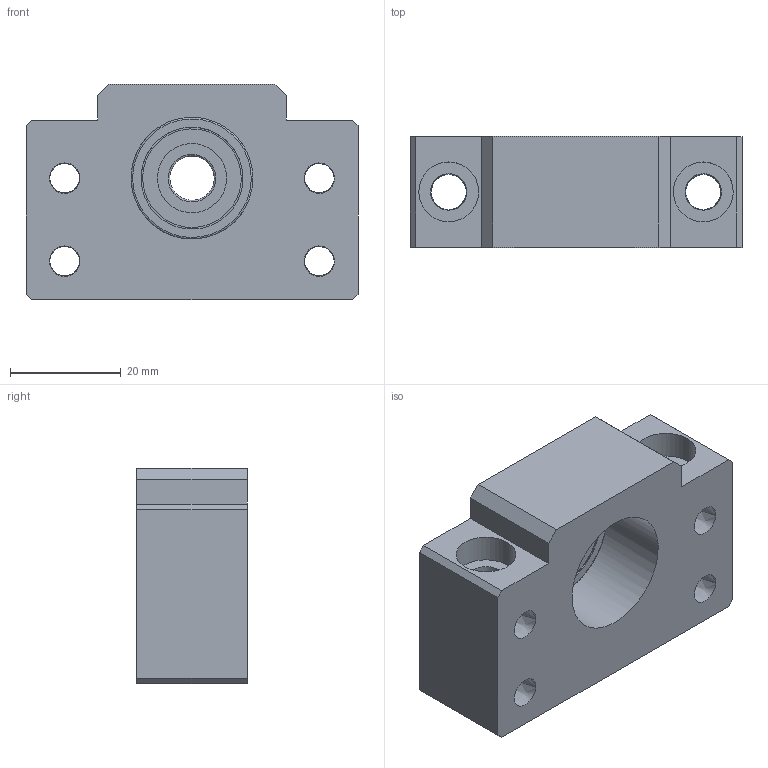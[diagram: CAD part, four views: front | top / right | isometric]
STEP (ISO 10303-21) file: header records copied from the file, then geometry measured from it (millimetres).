
FILE_DESCRIPTION( ('This file contains a STEP AP42 implementation' ,'as created by ZW3D STEP Interface translator.') ,'2;1' );
FILE_NAME( '80A36B12-864C-5B59-4A76-AE358267BE21.stp' ,'18 1 4.173645', (''), ('ZWCAD Software Co.'), 'Version 1.0', 'ZW3D to STEP translator', '' );
FILE_SCHEMA( ('CONFIG_CONTROL_DESIGN') );
Length unit declared in the file: millimetre
Products named in the file (4): 0; NSFBF-10; _BF 10 Part2; _BF 10 Part1
Assembly tree (2 placements, depth 2):
  0
  NSFBF-10
    _BF 10 Part2
    _BF 10 Part1
Bounding box: 60 x 20 x 39 mm (x, y, z)
Volume: 33836.2 mm3; surface area: 12117.4 mm2
Topology: 2 solids, 2 shells, 51 faces, 126 edges, 83 vertices
Faces by surface type: bspline 51
Entity records: 2379 total; most frequent: CARTESIAN_POINT 1453, ORIENTED_EDGE 252, EDGE_CURVE 126, VERTEX_POINT 83, B_SPLINE_CURVE_WITH_KNOTS 83, EDGE_LOOP 79, FACE_OUTER_BOUND 51, ADVANCED_FACE 51
